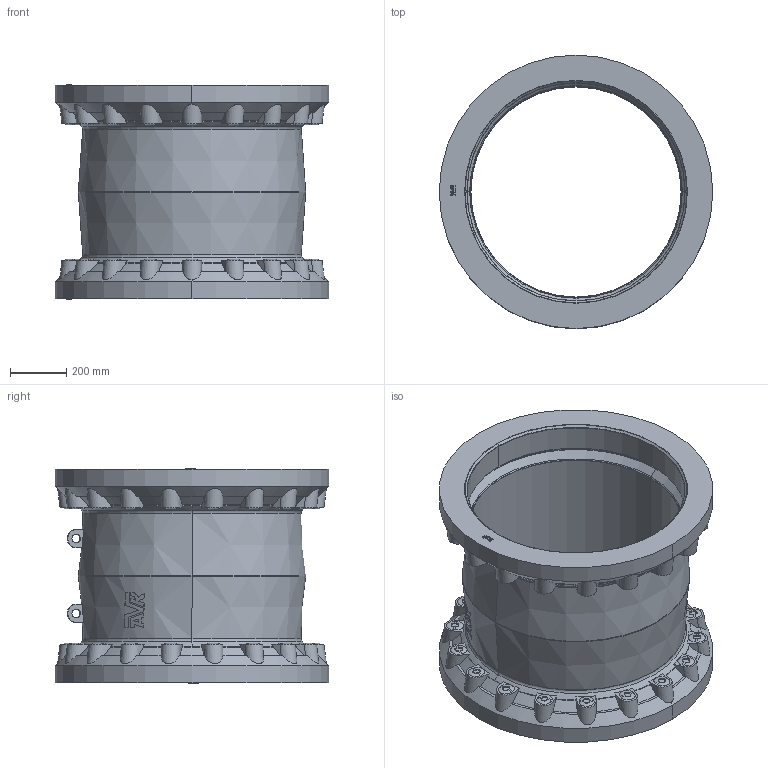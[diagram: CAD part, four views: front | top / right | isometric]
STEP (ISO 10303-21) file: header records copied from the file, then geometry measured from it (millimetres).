
FILE_DESCRIPTION (( 'STEP AP203' ), '1' );
FILE_NAME ('O_631_00_DN700_X_REV01.step', '2020-09-25T06:06:41', ( '' ), ( '' ), 'SwSTEP 2.0', 'SolidWorks 2019', '' );
FILE_SCHEMA (( 'CONFIG_CONTROL_DESIGN' ));
Length unit declared in the file: millimetre
Products named in the file (1): O_631_00_DN700_X_REV01
Bounding box: 973 x 973 x 763.9 mm (x, y, z)
Volume: 84942458.8 mm3; surface area: 5050093.8 mm2
Topology: 1 solids, 1 shells, 806 faces, 2070 edges, 1324 vertices
Faces by surface type: plane 386, cylinder 202, torus 98, cone 84, bspline 36
Entity records: 31159 total; most frequent: CARTESIAN_POINT 12171, ORIENTED_EDGE 4140, DIRECTION 3758, EDGE_CURVE 2070, AXIS2_PLACEMENT_3D 1461, VERTEX_POINT 1324, EDGE_LOOP 870, LINE 836
